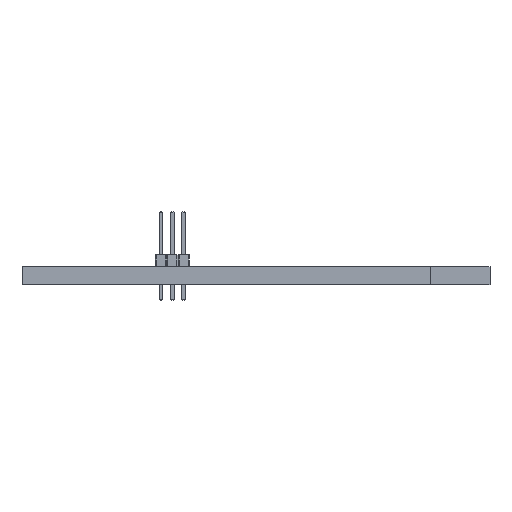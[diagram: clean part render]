
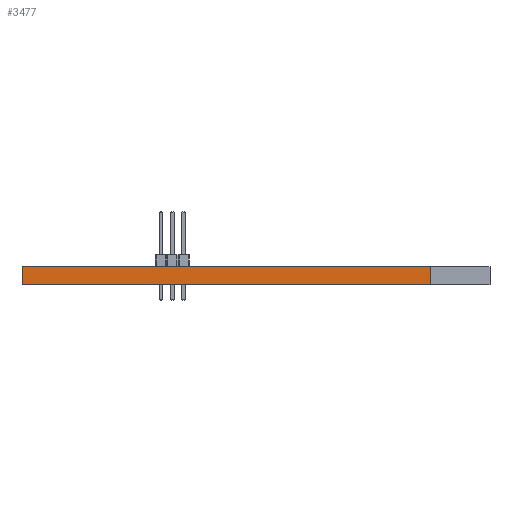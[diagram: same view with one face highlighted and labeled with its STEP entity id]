
A CAD part, left-side view. The second image highlights one B-rep face of the part: STEP entity #3477.
In plain terms, the highlighted planar face has unit normal (-1, 0, 0).
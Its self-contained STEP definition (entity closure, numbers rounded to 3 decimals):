
#2312 = VERTEX_POINT('',#2313);
#2313 = CARTESIAN_POINT('',(67.5,-140.5,0.));
#2319 = EDGE_CURVE('',#2312,#2320,#2322,.T.);
#2320 = VERTEX_POINT('',#2321);
#2321 = CARTESIAN_POINT('',(67.5,-104.5,0.));
#2322 = LINE('',#2323,#2324);
#2323 = CARTESIAN_POINT('',(67.5,-140.5,0.));
#2324 = VECTOR('',#2325,1.);
#2325 = DIRECTION('',(0.,1.,0.));
#2889 = VERTEX_POINT('',#2890);
#2890 = CARTESIAN_POINT('',(67.5,-140.5,1.6));
#2896 = EDGE_CURVE('',#2889,#2897,#2899,.T.);
#2897 = VERTEX_POINT('',#2898);
#2898 = CARTESIAN_POINT('',(67.5,-104.5,1.6));
#2899 = LINE('',#2900,#2901);
#2900 = CARTESIAN_POINT('',(67.5,-140.5,1.6));
#2901 = VECTOR('',#2902,1.);
#2902 = DIRECTION('',(0.,1.,0.));
#3447 = EDGE_CURVE('',#2320,#2897,#3448,.T.);
#3448 = LINE('',#3449,#3450);
#3449 = CARTESIAN_POINT('',(67.5,-104.5,0.));
#3450 = VECTOR('',#3451,1.);
#3451 = DIRECTION('',(0.,0.,1.));
#3477 = ADVANCED_FACE('',(#3478),#3489,.T.);
#3478 = FACE_BOUND('',#3479,.T.);
#3479 = EDGE_LOOP('',(#3480,#3486,#3487,#3488));
#3480 = ORIENTED_EDGE('',*,*,#3481,.T.);
#3481 = EDGE_CURVE('',#2312,#2889,#3482,.T.);
#3482 = LINE('',#3483,#3484);
#3483 = CARTESIAN_POINT('',(67.5,-140.5,0.));
#3484 = VECTOR('',#3485,1.);
#3485 = DIRECTION('',(0.,0.,1.));
#3486 = ORIENTED_EDGE('',*,*,#2896,.T.);
#3487 = ORIENTED_EDGE('',*,*,#3447,.F.);
#3488 = ORIENTED_EDGE('',*,*,#2319,.F.);
#3489 = PLANE('',#3490);
#3490 = AXIS2_PLACEMENT_3D('',#3491,#3492,#3493);
#3491 = CARTESIAN_POINT('',(67.5,-140.5,0.));
#3492 = DIRECTION('',(-1.,0.,0.));
#3493 = DIRECTION('',(0.,1.,0.));
